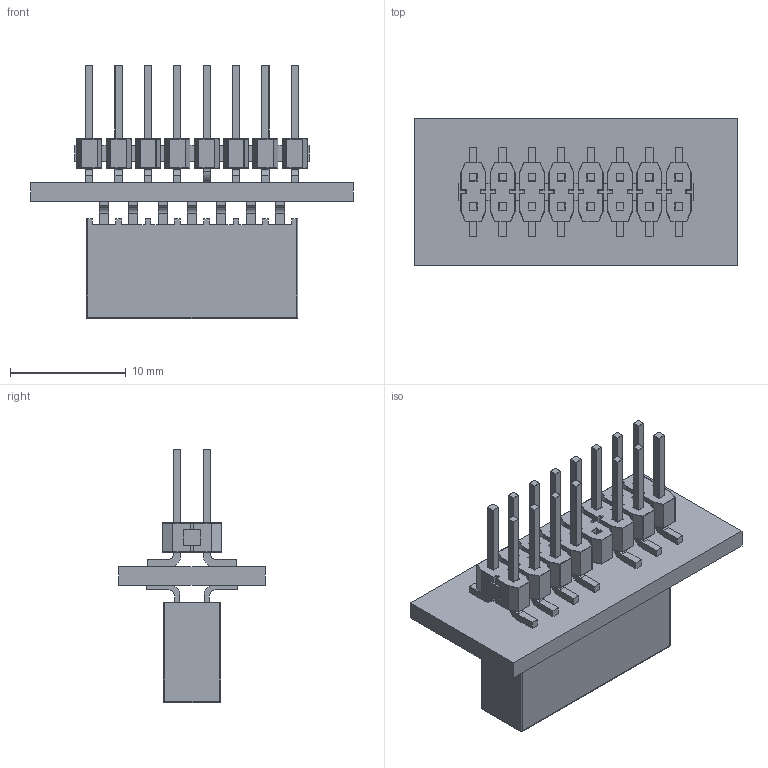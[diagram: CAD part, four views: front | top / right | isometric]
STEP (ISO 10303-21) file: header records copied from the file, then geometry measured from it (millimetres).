
FILE_DESCRIPTION(('Open CASCADE Model'),'2;1');
FILE_NAME('Open CASCADE Shape Model','2024-04-16T16:35:20',('Author'),( 'Open CASCADE'),'Open CASCADE STEP processor 7.5','Open CASCADE 7.5' ,'Unknown');
FILE_SCHEMA(('AUTOMOTIVE_DESIGN { 1 0 10303 214 1 1 1 1 }'));
Length unit declared in the file: millimetre
Products named in the file (15): PCB; Board; Open CASCADE STEP translator 7.5 2.1.1; J2; Conn_SSW-107-22-G-D-VS-006_HDR14; SSW-107-22-G-D-VS-006; T1SSW-107-22-G-D-VS-006; P2SSW-107-22-G-D-VS-006; Samtec Logo Yury; J1; Conn_TSM-108-01-L-DV-008-P-TR_HDR15; TSM-104-01-DV-008_body; T-1S6-16(-01-4-DV008); Tail; Samtec
Assembly tree (14 placements, depth 5):
  PCB
    Board
      Open CASCADE STEP translator 7.5 2.1.1
    J2
      Conn_SSW-107-22-G-D-VS-006_HDR14
        SSW-107-22-G-D-VS-006
          T1SSW-107-22-G-D-VS-006
          P2SSW-107-22-G-D-VS-006
        Samtec Logo Yury
    J1
      Conn_TSM-108-01-L-DV-008-P-TR_HDR15
        TSM-104-01-DV-008_body
        T-1S6-16(-01-4-DV008)
        Tail
        Samtec
Bounding box: 27.94 x 12.7 x 21.91 mm (x, y, z)
Volume: 1542.9 mm3; surface area: 3110.9 mm2
Topology: 29 solids, 29 shells, 2384 faces, 5617 edges, 3302 vertices
Faces by surface type: plane 1059, cylinder 909, sphere 328, bspline 88
Entity records: 67749 total; most frequent: CARTESIAN_POINT 12396, DIRECTION 11635, ORIENTED_EDGE 11226, EDGE_CURVE 5613, LINE 3905, VECTOR 3905, AXIS2_PLACEMENT_3D 3865, VERTEX_POINT 3302
